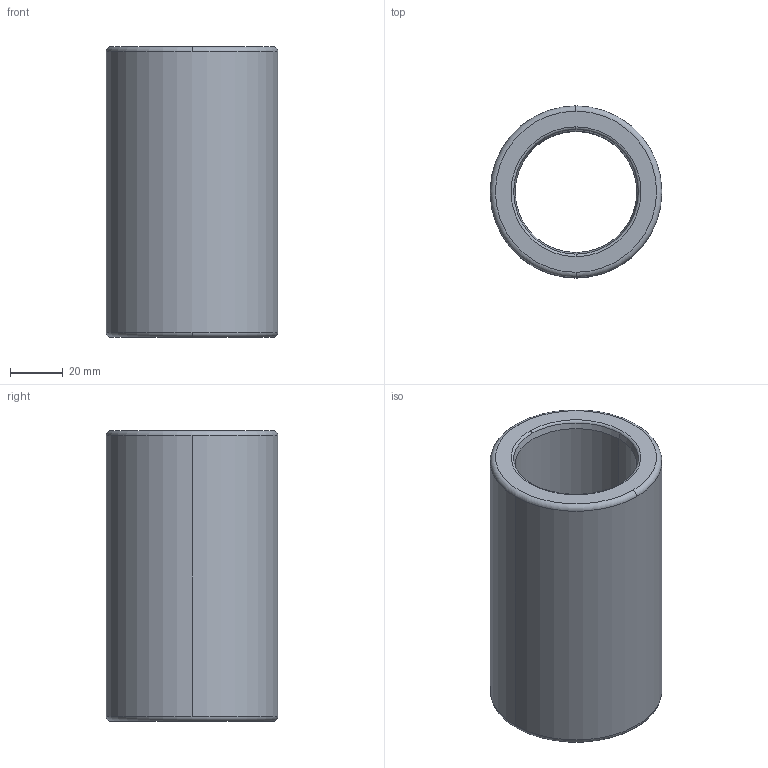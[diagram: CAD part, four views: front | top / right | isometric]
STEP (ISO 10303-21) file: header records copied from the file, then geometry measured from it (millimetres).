
FILE_DESCRIPTION((''),'2;1');
FILE_NAME('B30_038_110.stp','2009-01-12T10:46:44',(''),(''),'Mechanical Desktop 2009','Mechanical Desktop 2009',', , ');
FILE_SCHEMA(('CONFIG_CONTROL_DESIGN'));
Length unit declared in the file: millimetre
Products named in the file (2): Product; blmdl1
Assembly tree (1 placements, depth 2):
  Product
    blmdl1
Bounding box: 64.99 x 64.99 x 110 mm (x, y, z)
Volume: 181625.2 mm3; surface area: 41043.7 mm2
Topology: 1 solids, 1 shells, 18 faces, 48 edges, 32 vertices
Faces by surface type: torus 8, cylinder 4, cone 4, plane 2
Entity records: 705 total; most frequent: DIRECTION 128, CARTESIAN_POINT 100, ORIENTED_EDGE 96, AXIS2_PLACEMENT_3D 60, EDGE_CURVE 48, CIRCLE 40, VERTEX_POINT 32, EDGE_LOOP 20
